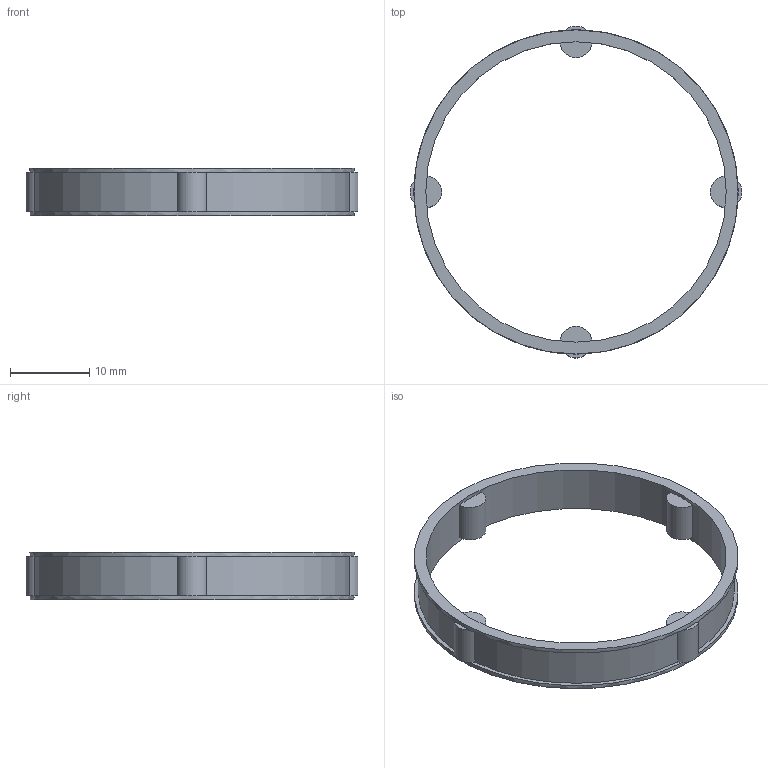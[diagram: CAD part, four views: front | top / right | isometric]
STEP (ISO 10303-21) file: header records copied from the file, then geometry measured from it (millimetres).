
FILE_DESCRIPTION(/* description */ (''),/* implementation_level */ '2;1');
FILE_NAME(/* name */ '302732 RL 442 - 4.stp',/* time_stamp */ '2016-11-10T15:17:56+01:00',/* author */ (''),/* organization */ (''),/* preprocessor_version */ 'ST-DEVELOPER v15',/* originating_system */ 'SIEMENS PLM Software NX 8.5',/* authorisation */ '');
FILE_SCHEMA (('CONFIG_CONTROL_DESIGN'));
Length unit declared in the file: millimetre
Products named in the file (1): ATE0000098_01
Bounding box: 41.99 x 41.99 x 6 mm (x, y, z)
Volume: 972.5 mm3; surface area: 2074.5 mm2
Topology: 1 solids, 1 shells, 41 faces, 92 edges, 56 vertices
Faces by surface type: plane 26, cylinder 15
Full cylindrical faces by diameter (mm): 38 x1, 41 x2
Entity records: 1198 total; most frequent: DIRECTION 236, CARTESIAN_POINT 178, ORIENTED_EDGE 168, AXIS2_PLACEMENT_3D 110, EDGE_CURVE 84, CIRCLE 68, VERTEX_POINT 52, EDGE_LOOP 50
